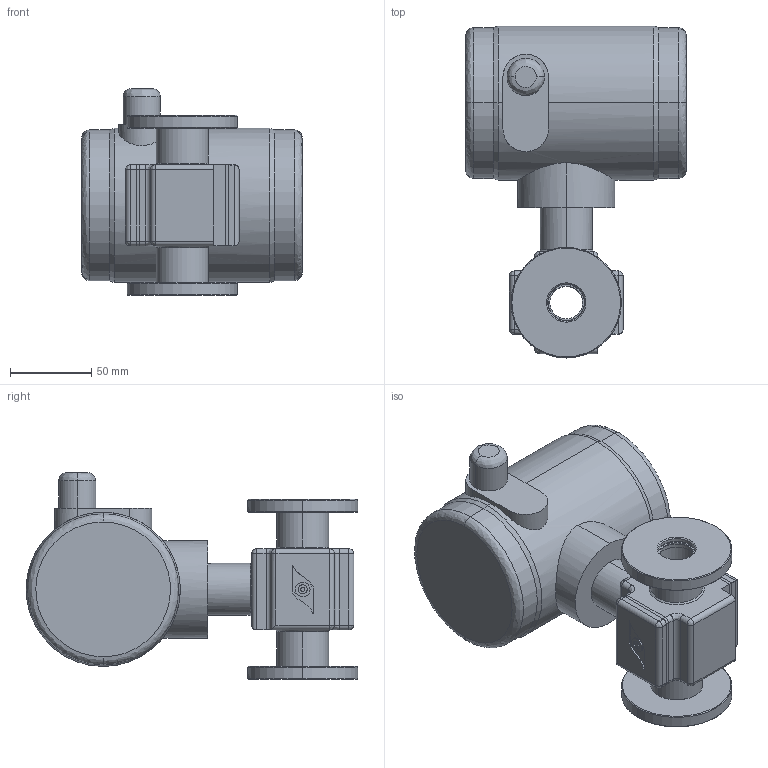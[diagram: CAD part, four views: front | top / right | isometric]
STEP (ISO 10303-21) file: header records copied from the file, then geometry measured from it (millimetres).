
FILE_DESCRIPTION (( 'STEP AP203' ), '1' );
FILE_NAME ('ﾐﾑ25 ﾑ.STEP', '2022-11-11T06:03:10', ( '' ), ( '' ), 'SwSTEP 2.0', 'SolidWorks 2020', '' );
FILE_SCHEMA (( 'CONFIG_CONTROL_DESIGN' ));
Length unit declared in the file: millimetre
Products named in the file (1): ﾐﾑ25 ﾑ
Bounding box: 136 x 204.5 x 127.5 mm (x, y, z)
Volume: 1297139.1 mm3; surface area: 136175.3 mm2
Topology: 6 solids, 6 shells, 293 faces, 677 edges, 405 vertices
Faces by surface type: cylinder 111, plane 95, bspline 48, cone 39
Entity records: 9904 total; most frequent: CARTESIAN_POINT 3395, DIRECTION 1345, ORIENTED_EDGE 1316, EDGE_CURVE 658, AXIS2_PLACEMENT_3D 507, VERTEX_POINT 405, VECTOR 331, LINE 331
